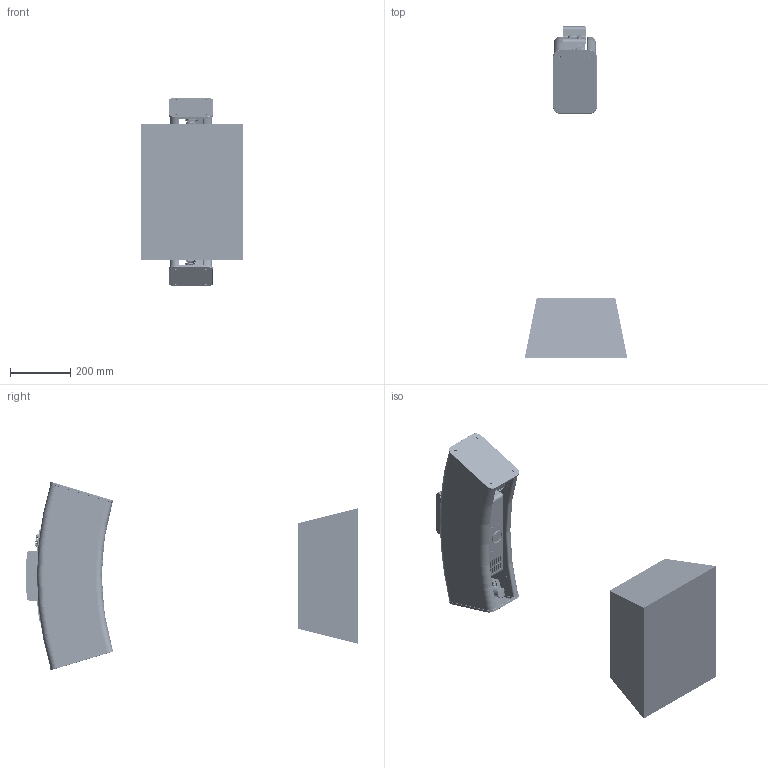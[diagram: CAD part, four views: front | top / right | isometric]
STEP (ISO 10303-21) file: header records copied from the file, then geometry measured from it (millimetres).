
FILE_DESCRIPTION((''),'2;1');
FILE_NAME('0000830494_ASM','2026-02-16T09:59:37',('11001218'),(''),'CREO PARAMETRIC BY PTC INC, 2023154','CREO PARAMETRIC BY PTC INC, 2023154','');
FILE_SCHEMA(('CONFIG_CONTROL_DESIGN'));
Products named in the file (47): 0000821022; 0000826206; 0000828761; 0000827164_ASM; 0000825718; 0000825732; 0000827199; 0000829351; 0000828150_ASM; 0000830611; 0000830456_ASM; 0000830457_ASM; 0000829062; GT218300-02-XX; 0000842409; SC26XX_CAMERA_IO_BOARD; PXC_1249211_01_00_SACC-DSIV-M12; 0000829855; 0000829982; 0000830604; 0000830479_ASM; 0000427151; 0000427153; 0000826972; 0000013146; 0000821173; 0000826927_ASM; 0000827048; VS-MC16H1; 0000194705; 0000013112; 0000024246; 0000145117; 0000013114; 0466016; 0000026021; 0000026018; 0000012527; 0000026036; 0000829387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
Assembly tree (72 placements, depth 6):
  0000830494_ASM
    0000827164_ASM
      0000821022
      0000826206
      0000828761  x2
    0000830479_ASM
      0000830457_ASM
        0000830456_ASM
          0000825718
          0000828150_ASM
            0000825732
            0000827199
            0000829351  x4
          0000830611
      0000829062  x2
      GT218300-02-XX  x2
      0000842409
      SC26XX_CAMERA_IO_BOARD  x2
      PXC_1249211_01_00_SACC-DSIV-M12
      0000829855
      0000829982  x3
      0000830604
    0000427151  x2
    0000427153
    0000826971_ASM  x2
      0000826972
      0000013146
      0000821173
      0000826927_ASM
      0000827048
      VS-MC16H1
      0000194705
      0000013112
      0000024246
      0000145117
      0000013114
      0466016
      0000026021
      0000026018
      0000012527
      0000026036
      0000829387
    0000016432  x2
    0000826884
    0000830586
    0000892254
    0000433294
Bounding box: 340 x 1101.73 x 626.21 mm (x, y, z)
Volume: 29166916.8 mm3; surface area: 2278259.8 mm2
Topology: 215 solids, 959 shells, 19308 faces, 59145 edges, 41811 vertices
Faces by surface type: plane 11483, cylinder 5194, cone 825, bspline 689, extrusion 452, torus 443, sphere 222
Entity records: 641072 total; most frequent: CARTESIAN_POINT 224709, ORIENTED_EDGE 85167, DIRECTION 80244, EDGE_CURVE 47380, VERTEX_POINT 33838, VECTOR 32970, LINE 32557, AXIS2_PLACEMENT_3D 23637
